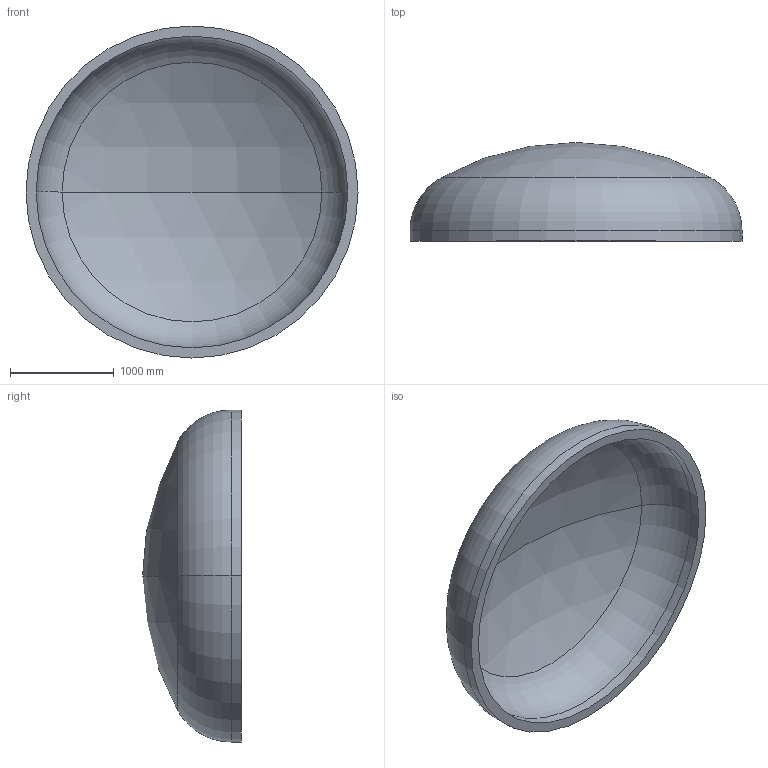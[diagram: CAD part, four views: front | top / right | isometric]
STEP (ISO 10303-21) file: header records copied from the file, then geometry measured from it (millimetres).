
FILE_DESCRIPTION (( 'STEP AP203' ), '1' );
FILE_NAME ('DIN 28013 Korbbogenform_-_Boden DIN 28013 - 3200 x 100 - I - s=98.step', '2016-07-01T18:57:45', ( '' ), ( '' ), 'SwSTEP 2.0', 'SolidWorks 2013', '' );
FILE_SCHEMA (( 'CONFIG_CONTROL_DESIGN' ));
Length unit declared in the file: millimetre
Products named in the file (1): DIN 28013 Korbbogenform_-_Boden DIN 28013 - 3200 x 100 - I - s=98
Bounding box: 3200 x 952.24 x 3200 mm (x, y, z)
Volume: 1143110118 mm3; surface area: 24303916.4 mm2
Topology: 1 solids, 1 shells, 13 faces, 24 edges, 14 vertices
Faces by surface type: torus 4, cylinder 4, sphere 4, plane 1
Entity records: 407 total; most frequent: DIRECTION 72, CARTESIAN_POINT 52, ORIENTED_EDGE 48, AXIS2_PLACEMENT_3D 34, EDGE_CURVE 24, CIRCLE 20, EDGE_LOOP 14, VERTEX_POINT 14
